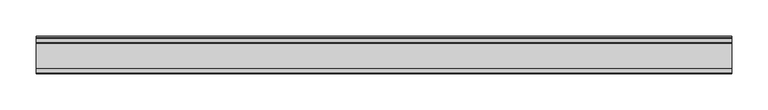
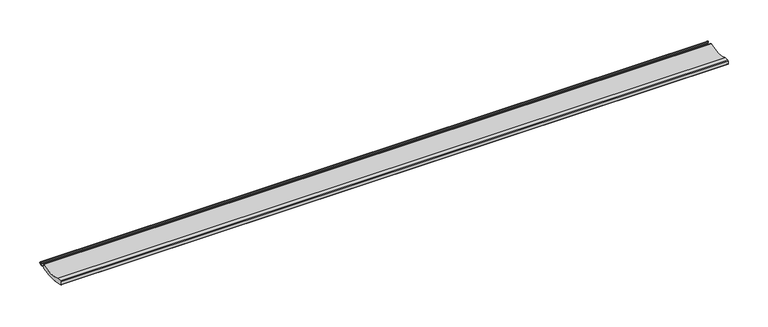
"""IFC4 building model written with IfcOpenShell, lengths in millimetres: proxy geometry, Weiku - Montante -  aleta persiana 02.2.01.305 : Weiku - Montante -  aleta persiana 02.2.01.305."""

from ifc_helpers import new_model, si_unit, point, frame, frame_2d, origin, place, context, project, spatial, polyline, circle_curve, trimmed, segment, composite_curve, outline, extrude, source, transform, mapped, element, save


def generic_models_7a1b9615(model_context):
    return source(origin(), model_context, "Body", "SweptSolid", [
        extrude(outline(composite_curve([segment(trimmed(circle_curve(frame_2d((42.5, 4.6694318)), 0.5), [point((42.3231022, 5.1370932))], [point((43.0, 4.6694318))], False, "CARTESIAN"), True, "CONTINUOUS"), segment(polyline([(43.0, 4.6694318), (43.0, 0.8), (49.865, 0.8)]), True, "CONTINUOUS"), segment(trimmed(circle_curve(frame_2d((49.865, 2.175)), 1.375), [point((49.865, 0.8))], [point((48.8043398, 3.05))], True, "CARTESIAN"), True, "CONTINUOUS"), segment(polyline([(48.8043398, 3.05), (48.8043398, 4.35), (49.865, 4.35)]), True, "CONTINUOUS"), segment(trimmed(circle_curve(frame_2d((49.865, 2.175)), 2.175), [point((49.865, 4.35))], [point((49.865, 0.0))], False, "CARTESIAN"), True, "CONTINUOUS"), segment(polyline([(49.865, 0.0), (43.0, 0.0), (43.0, -0.7827712)]), True, "CONTINUOUS"), segment(trimmed(circle_curve(frame_2d((21.6253298, 78.0935981)), 81.7212223), [point((43.0, -0.7827712))], [point((29.1695632, -3.2786497))], False, "CARTESIAN"), True, "CONTINUOUS"), segment(trimmed(circle_curve(frame_2d((28.6558102, -3.9281482)), 0.8281247), [point((29.1695632, -3.2786497))], [point((28.03902, -3.375554))], True, "CARTESIAN"), True, "CONTINUOUS"), segment(trimmed(circle_curve(frame_2d((21.6253298, 78.0935981)), 81.7212223), [point((28.03902, -3.375554))], [point((14.8747096, -3.3483278))], False, "CARTESIAN"), True, "CONTINUOUS"), segment(trimmed(circle_curve(frame_2d((14.2816485, -3.8467778)), 0.7747088), [point((14.8747096, -3.3483278))], [point((13.7866712, -3.2508153))], True, "CARTESIAN"), True, "CONTINUOUS"), segment(trimmed(circle_curve(frame_2d((21.6253298, 78.0935981)), 81.7212223), [point((13.7866712, -3.2508153))], [point((0.5941175, -0.875043))], False, "CARTESIAN"), True, "CONTINUOUS"), segment(trimmed(circle_curve(frame_2d((0.8, -0.101989)), 0.8), [point((0.5941175, -0.875043))], [point((0.0, -0.101989))], False, "CARTESIAN"), True, "CONTINUOUS"), segment(polyline([(0.0, -0.101989), (0.0, 4.604273)]), True, "CONTINUOUS"), segment(trimmed(circle_curve(frame_2d((0.6784053, 4.604273)), 0.6784053), [point((0.0, 4.604273))], [point((0.6784053, 5.2826784))], False, "CARTESIAN"), True, "CONTINUOUS"), segment(polyline([(0.6784053, 5.2826784), (7.0094119, 5.2826784)]), True, "CONTINUOUS"), segment(trimmed(circle_curve(frame_2d((24.8563258, 51.3136844)), 49.3696856), [point((7.0094119, 5.2826784))], [point((42.3231022, 5.1370932))], True, "CARTESIAN"), True, "CONTINUOUS")], self_intersect=False)), frame((-481.625, 0.0, 0.0), z_axis=(1.0, 0.0, 0.0), x_axis=(0.0, 1.0, 0.0)), (0.0, 0.0, 1.0), 963.25),
    ])


if __name__ == "__main__":
    model = new_model("IFC4")
    model_context = context("Model", 3, world=origin())
    ifc_project = project(units=[si_unit("LENGTHUNIT", "METRE", prefix="MILLI")], contexts=[model_context])
    site = spatial("IfcSite", under=ifc_project)
    building = spatial("IfcBuilding", under=site)
    placement = place(None, origin())
    generic_models_shape = generic_models_7a1b9615(model_context)
    element("IfcBuildingElementProxy", 1, Name="Weiku - Montante -  aleta persiana 02.2.01.305 : Weiku - Montante -  aleta persiana 02.2.01.305", ObjectType="Weiku - Montante -  aleta persiana 02.2.01.305 : Weiku - Montante -  aleta persiana 02.2.01.305", at=placement, inside=building, context=model_context, shape_type="MappedRepresentation", body=[
        mapped(generic_models_shape, transform((0.0, 0.0, 0.0), x_axis=(1.0, 0.0, 0.0), y_axis=(0.0, 1.0, 0.0), z_axis=(0.0, 0.0, 1.0))),
    ])
    save(model, "model.ifc")
